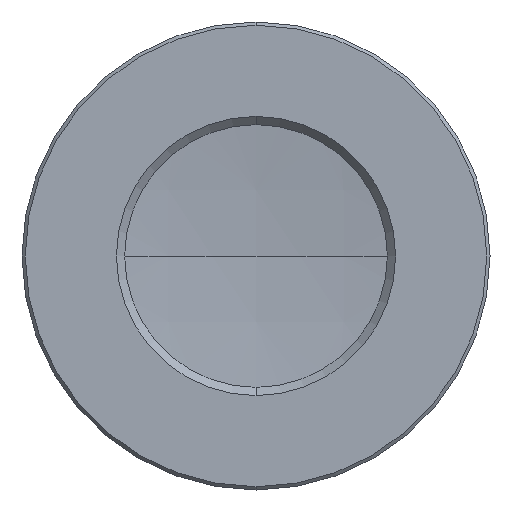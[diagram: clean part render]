
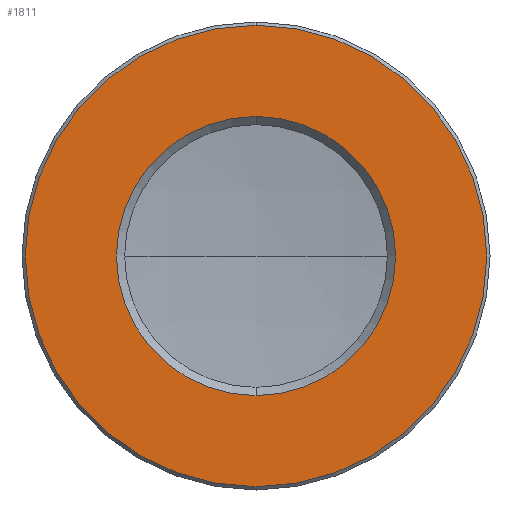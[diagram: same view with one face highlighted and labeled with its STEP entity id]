
A CAD part, front view. The second image highlights one B-rep face of the part: STEP entity #1811.
In plain terms, the highlighted planar face has unit normal (0, -1, 0).
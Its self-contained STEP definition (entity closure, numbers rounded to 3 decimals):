
#89 = VERTEX_POINT ( 'NONE', #1676 ) ;
#233 = CARTESIAN_POINT ( 'NONE',  ( 0., 35.047, 0. ) ) ;
#428 = DIRECTION ( 'NONE',  ( 0., -1., 0. ) ) ;
#975 = DIRECTION ( 'NONE',  ( 0., 0., -1. ) ) ;
#1000 = AXIS2_PLACEMENT_3D ( 'NONE', #2258, #1461, #1512 ) ;
#1115 = CARTESIAN_POINT ( 'NONE',  ( 0., 35.047, 0. ) ) ;
#1163 = CIRCLE ( 'NONE', #3567, 14.05 ) ;
#1410 = DIRECTION ( 'NONE',  ( 0., -1., 0. ) ) ;
#1422 = CARTESIAN_POINT ( 'NONE',  ( 0., 35.047, -8.5 ) ) ;
#1423 = VERTEX_POINT ( 'NONE', #3206 ) ;
#1461 = DIRECTION ( 'NONE',  ( 0., 1., 0. ) ) ;
#1466 = FACE_BOUND ( 'NONE', #3532, .T. ) ;
#1468 = CARTESIAN_POINT ( 'NONE',  ( 14.25, 35.047, 0. ) ) ;
#1512 = DIRECTION ( 'NONE',  ( 0., 0., -1. ) ) ;
#1630 = EDGE_CURVE ( 'NONE', #89, #2889, #2567, .T. ) ;
#1676 = CARTESIAN_POINT ( 'NONE',  ( 0., 35.047, 8.5 ) ) ;
#1771 = ORIENTED_EDGE ( 'NONE', *, *, #1630, .T. ) ;
#1811 = ADVANCED_FACE ( 'NONE', ( #1466, #2989 ), #2992, .T. ) ;
#1812 = DIRECTION ( 'NONE',  ( 0., 0., -1. ) ) ;
#1817 = CARTESIAN_POINT ( 'NONE',  ( 0., 35.047, -14.05 ) ) ;
#1840 = CARTESIAN_POINT ( 'NONE',  ( 0., 35.047, 0. ) ) ;
#2173 = EDGE_CURVE ( 'NONE', #1423, #3742, #3217, .T. ) ;
#2258 = CARTESIAN_POINT ( 'NONE',  ( 0., 35.047, 0. ) ) ;
#2424 = DIRECTION ( 'NONE',  ( 0., 0., -1. ) ) ;
#2464 = EDGE_LOOP ( 'NONE', ( #2830, #2706 ) ) ;
#2500 = DIRECTION ( 'NONE',  ( 0., 1., 0. ) ) ;
#2519 = EDGE_CURVE ( 'NONE', #3742, #1423, #1163, .T. ) ;
#2567 = CIRCLE ( 'NONE', #1000, 8.5 ) ;
#2706 = ORIENTED_EDGE ( 'NONE', *, *, #2519, .T. ) ;
#2830 = ORIENTED_EDGE ( 'NONE', *, *, #2173, .T. ) ;
#2834 = DIRECTION ( 'NONE',  ( 0., -1., 0. ) ) ;
#2889 = VERTEX_POINT ( 'NONE', #1422 ) ;
#2989 = FACE_OUTER_BOUND ( 'NONE', #2464, .T. ) ;
#2992 = PLANE ( 'NONE',  #3398 ) ;
#3206 = CARTESIAN_POINT ( 'NONE',  ( 0., 35.047, 14.05 ) ) ;
#3217 = CIRCLE ( 'NONE', #3649, 14.05 ) ;
#3398 = AXIS2_PLACEMENT_3D ( 'NONE', #1468, #1410, #1812 ) ;
#3464 = DIRECTION ( 'NONE',  ( 0., 0., -1. ) ) ;
#3532 = EDGE_LOOP ( 'NONE', ( #3717, #1771 ) ) ;
#3533 = EDGE_CURVE ( 'NONE', #2889, #89, #3598, .T. ) ;
#3567 = AXIS2_PLACEMENT_3D ( 'NONE', #1115, #428, #3464 ) ;
#3598 = CIRCLE ( 'NONE', #3668, 8.5 ) ;
#3649 = AXIS2_PLACEMENT_3D ( 'NONE', #1840, #2834, #975 ) ;
#3668 = AXIS2_PLACEMENT_3D ( 'NONE', #233, #2500, #2424 ) ;
#3717 = ORIENTED_EDGE ( 'NONE', *, *, #3533, .T. ) ;
#3742 = VERTEX_POINT ( 'NONE', #1817 ) ;
